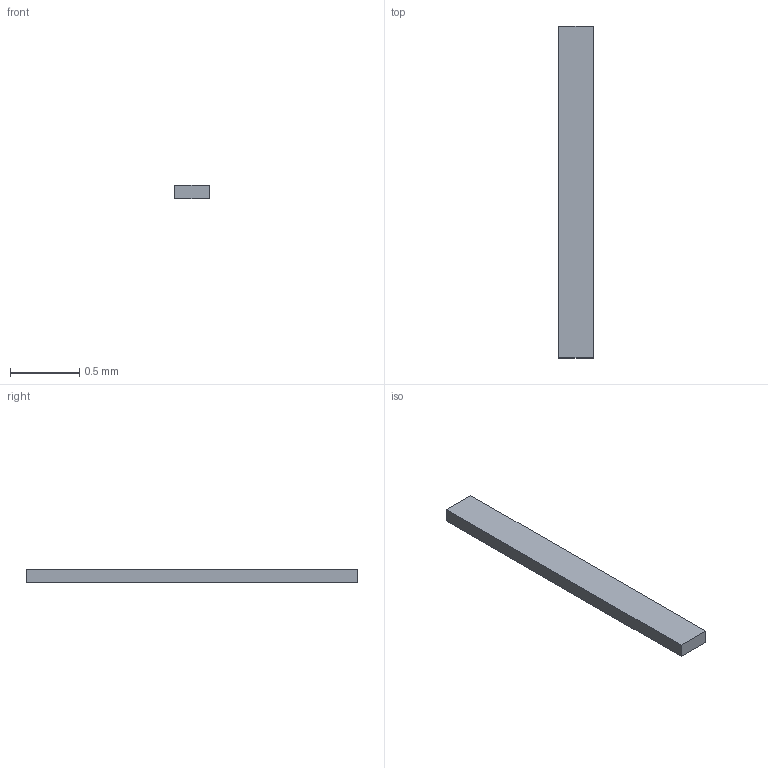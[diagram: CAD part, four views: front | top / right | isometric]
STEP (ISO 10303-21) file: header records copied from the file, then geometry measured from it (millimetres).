
FILE_DESCRIPTION(/* description */ ('STEP AP242 Edition 2','CAx-IF Rec.Pracs.---Representation and Presentation of Product Manufacturing Information (PMI)---4.0---2014-10-13','CAx-IF Rec.Pracs.---3D Tessellated Geometry---0.4---2014-09-14','2;1','CAx-IF Rec.Pracs.---User Defined Attributes---1.5---2016-08-15'),/* implementation_level */ '2;1');
FILE_NAME(/* name */ 'v2_assembly - USB_C_Receptacle_GCT_USB4105-xx-A_16P_TopMnt_Horizontal (11)',/* time_stamp */ '2026-05-19T16:26:07Z',/* author */ (''),/* organization */ (''),/* preprocessor_version */ 'ST-DEVELOPER v20',/* originating_system */ 'ONSHAPE BY PTC INC, 1.215',/* authorisation */ ' ');
FILE_SCHEMA (('AP242_MANAGED_MODEL_BASED_3D_ENGINEERING_MIM_LF { 1 0 10303 442 3 1 4 }'));
Length unit declared in the file: metre
Products named in the file (1): USB_C_Receptacle_GCT_USB4105-xx-A_16P_TopMnt_Horizontal
Bounding box: 0.25 x 2.4 x 0.1 mm (x, y, z)
Volume: 0.1 mm3; surface area: 1.7 mm2
Topology: 1 solids, 1 shells, 6 faces, 12 edges, 8 vertices
Faces by surface type: plane 6
Entity records: 221 total; most frequent: CARTESIAN_POINT 27, DIRECTION 26, ORIENTED_EDGE 24, EDGE_CURVE 12, LINE 12, VECTOR 12, VERTEX_POINT 8, PRESENTATION_STYLE_ASSIGNMENT 7
